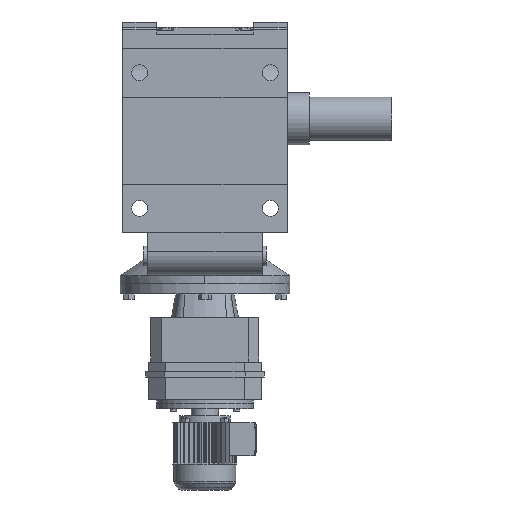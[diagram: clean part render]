
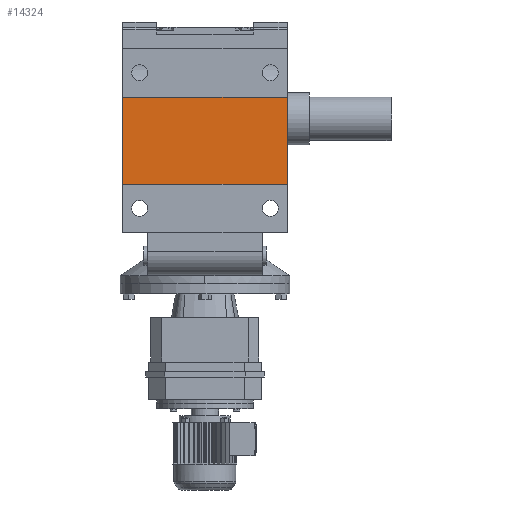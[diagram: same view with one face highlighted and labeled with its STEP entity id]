
A CAD part, front view. The second image highlights one B-rep face of the part: STEP entity #14324.
In plain terms, the highlighted planar face has unit normal (0, -1, 0).
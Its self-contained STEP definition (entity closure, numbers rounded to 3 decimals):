
#568 = PLANE('',#569);
#569 = AXIS2_PLACEMENT_3D('',#570,#571,#572);
#570 = CARTESIAN_POINT('',(170.,-258.975,155.));
#571 = DIRECTION('',(1.,0.,0.));
#572 = DIRECTION('',(0.,0.,-1.));
#3618 = VERTEX_POINT('',#3619);
#3619 = CARTESIAN_POINT('',(170.,-303.975,45.));
#3633 = PLANE('',#3634);
#3634 = AXIS2_PLACEMENT_3D('',#3635,#3636,#3637);
#3635 = CARTESIAN_POINT('',(170.,-303.975,45.));
#3636 = DIRECTION('',(0.,0.,1.));
#3637 = DIRECTION('',(0.,-1.,0.));
#3645 = EDGE_CURVE('',#3618,#3646,#3648,.T.);
#3646 = VERTEX_POINT('',#3647);
#3647 = CARTESIAN_POINT('',(170.,-303.975,-135.));
#3648 = SURFACE_CURVE('',#3649,(#3653,#3660),.PCURVE_S1.);
#3649 = LINE('',#3650,#3651);
#3650 = CARTESIAN_POINT('',(170.,-303.975,45.));
#3651 = VECTOR('',#3652,1.);
#3652 = DIRECTION('',(0.,0.,-1.));
#3653 = PCURVE('',#568,#3654);
#3654 = DEFINITIONAL_REPRESENTATION('',(#3655),#3659);
#3655 = LINE('',#3656,#3657);
#3656 = CARTESIAN_POINT('',(110.,-45.));
#3657 = VECTOR('',#3658,1.);
#3658 = DIRECTION('',(1.,0.));
#3659 = ( GEOMETRIC_REPRESENTATION_CONTEXT(2) 
PARAMETRIC_REPRESENTATION_CONTEXT() REPRESENTATION_CONTEXT('2D SPACE',''
  ) );
#3660 = PCURVE('',#3661,#3666);
#3661 = PLANE('',#3662);
#3662 = AXIS2_PLACEMENT_3D('',#3663,#3664,#3665);
#3663 = CARTESIAN_POINT('',(118.5,-303.975,160.));
#3664 = DIRECTION('',(0.,1.,0.));
#3665 = DIRECTION('',(0.,0.,1.));
#3666 = DEFINITIONAL_REPRESENTATION('',(#3667),#3671);
#3667 = LINE('',#3668,#3669);
#3668 = CARTESIAN_POINT('',(-115.,51.5));
#3669 = VECTOR('',#3670,1.);
#3670 = DIRECTION('',(-1.,0.));
#3671 = ( GEOMETRIC_REPRESENTATION_CONTEXT(2) 
PARAMETRIC_REPRESENTATION_CONTEXT() REPRESENTATION_CONTEXT('2D SPACE',''
  ) );
#3689 = PLANE('',#3690);
#3690 = AXIS2_PLACEMENT_3D('',#3691,#3692,#3693);
#3691 = CARTESIAN_POINT('',(170.,-303.975,-135.));
#3692 = DIRECTION('',(0.,0.,-1.));
#3693 = DIRECTION('',(-1.,0.,0.));
#6871 = PLANE('',#6872);
#6872 = AXIS2_PLACEMENT_3D('',#6873,#6874,#6875);
#6873 = CARTESIAN_POINT('',(-170.,-258.975,155.));
#6874 = DIRECTION('',(1.,0.,0.));
#6875 = DIRECTION('',(0.,0.,-1.));
#14280 = VERTEX_POINT('',#14281);
#14281 = CARTESIAN_POINT('',(-170.,-303.975,-135.));
#14304 = EDGE_CURVE('',#3646,#14280,#14305,.T.);
#14305 = SURFACE_CURVE('',#14306,(#14310,#14317),.PCURVE_S1.);
#14306 = LINE('',#14307,#14308);
#14307 = CARTESIAN_POINT('',(170.,-303.975,-135.));
#14308 = VECTOR('',#14309,1.);
#14309 = DIRECTION('',(-1.,0.,0.));
#14310 = PCURVE('',#3689,#14311);
#14311 = DEFINITIONAL_REPRESENTATION('',(#14312),#14316);
#14312 = LINE('',#14313,#14314);
#14313 = CARTESIAN_POINT('',(0.,0.));
#14314 = VECTOR('',#14315,1.);
#14315 = DIRECTION('',(1.,0.));
#14316 = ( GEOMETRIC_REPRESENTATION_CONTEXT(2) 
PARAMETRIC_REPRESENTATION_CONTEXT() REPRESENTATION_CONTEXT('2D SPACE',''
  ) );
#14317 = PCURVE('',#3661,#14318);
#14318 = DEFINITIONAL_REPRESENTATION('',(#14319),#14323);
#14319 = LINE('',#14320,#14321);
#14320 = CARTESIAN_POINT('',(-295.,51.5));
#14321 = VECTOR('',#14322,1.);
#14322 = DIRECTION('',(0.,-1.));
#14323 = ( GEOMETRIC_REPRESENTATION_CONTEXT(2) 
PARAMETRIC_REPRESENTATION_CONTEXT() REPRESENTATION_CONTEXT('2D SPACE',''
  ) );
#14324 = ADVANCED_FACE('',(#14325),#3661,.F.);
#14325 = FACE_BOUND('',#14326,.T.);
#14326 = EDGE_LOOP('',(#14327,#14350,#14371,#14372));
#14327 = ORIENTED_EDGE('',*,*,#14328,.T.);
#14328 = EDGE_CURVE('',#3618,#14329,#14331,.T.);
#14329 = VERTEX_POINT('',#14330);
#14330 = CARTESIAN_POINT('',(-170.,-303.975,45.));
#14331 = SURFACE_CURVE('',#14332,(#14336,#14343),.PCURVE_S1.);
#14332 = LINE('',#14333,#14334);
#14333 = CARTESIAN_POINT('',(170.,-303.975,45.));
#14334 = VECTOR('',#14335,1.);
#14335 = DIRECTION('',(-1.,0.,0.));
#14336 = PCURVE('',#3661,#14337);
#14337 = DEFINITIONAL_REPRESENTATION('',(#14338),#14342);
#14338 = LINE('',#14339,#14340);
#14339 = CARTESIAN_POINT('',(-115.,51.5));
#14340 = VECTOR('',#14341,1.);
#14341 = DIRECTION('',(0.,-1.));
#14342 = ( GEOMETRIC_REPRESENTATION_CONTEXT(2) 
PARAMETRIC_REPRESENTATION_CONTEXT() REPRESENTATION_CONTEXT('2D SPACE',''
  ) );
#14343 = PCURVE('',#3633,#14344);
#14344 = DEFINITIONAL_REPRESENTATION('',(#14345),#14349);
#14345 = LINE('',#14346,#14347);
#14346 = CARTESIAN_POINT('',(0.,0.));
#14347 = VECTOR('',#14348,1.);
#14348 = DIRECTION('',(0.,-1.));
#14349 = ( GEOMETRIC_REPRESENTATION_CONTEXT(2) 
PARAMETRIC_REPRESENTATION_CONTEXT() REPRESENTATION_CONTEXT('2D SPACE',''
  ) );
#14350 = ORIENTED_EDGE('',*,*,#14351,.T.);
#14351 = EDGE_CURVE('',#14329,#14280,#14352,.T.);
#14352 = SURFACE_CURVE('',#14353,(#14357,#14364),.PCURVE_S1.);
#14353 = LINE('',#14354,#14355);
#14354 = CARTESIAN_POINT('',(-170.,-303.975,45.));
#14355 = VECTOR('',#14356,1.);
#14356 = DIRECTION('',(0.,0.,-1.));
#14357 = PCURVE('',#3661,#14358);
#14358 = DEFINITIONAL_REPRESENTATION('',(#14359),#14363);
#14359 = LINE('',#14360,#14361);
#14360 = CARTESIAN_POINT('',(-115.,-288.5));
#14361 = VECTOR('',#14362,1.);
#14362 = DIRECTION('',(-1.,0.));
#14363 = ( GEOMETRIC_REPRESENTATION_CONTEXT(2) 
PARAMETRIC_REPRESENTATION_CONTEXT() REPRESENTATION_CONTEXT('2D SPACE',''
  ) );
#14364 = PCURVE('',#6871,#14365);
#14365 = DEFINITIONAL_REPRESENTATION('',(#14366),#14370);
#14366 = LINE('',#14367,#14368);
#14367 = CARTESIAN_POINT('',(110.,-45.));
#14368 = VECTOR('',#14369,1.);
#14369 = DIRECTION('',(1.,0.));
#14370 = ( GEOMETRIC_REPRESENTATION_CONTEXT(2) 
PARAMETRIC_REPRESENTATION_CONTEXT() REPRESENTATION_CONTEXT('2D SPACE',''
  ) );
#14371 = ORIENTED_EDGE('',*,*,#14304,.F.);
#14372 = ORIENTED_EDGE('',*,*,#3645,.F.);
